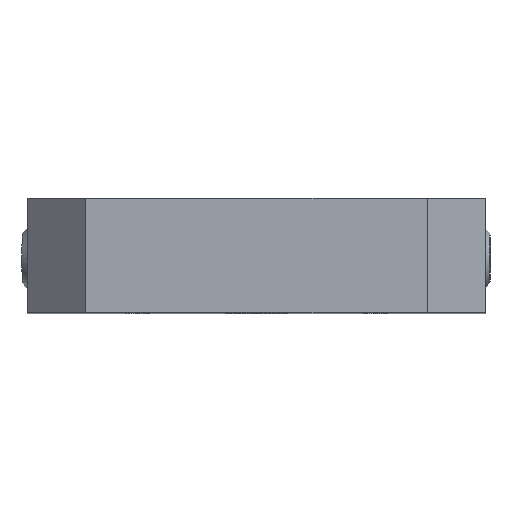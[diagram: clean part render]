
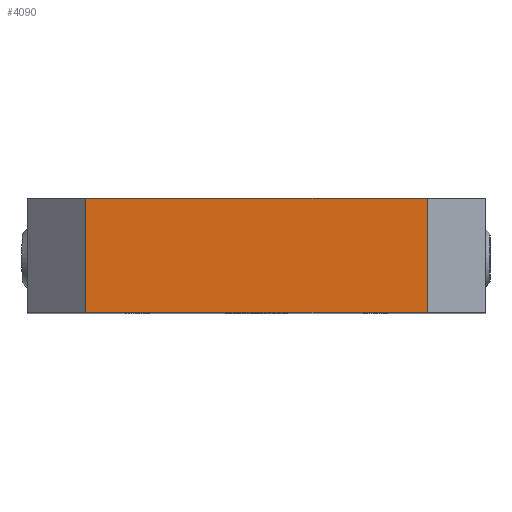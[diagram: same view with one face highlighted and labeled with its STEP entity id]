
A CAD part, top view. The second image highlights one B-rep face of the part: STEP entity #4090.
In plain terms, the highlighted planar face has unit normal (0, 0, 1).
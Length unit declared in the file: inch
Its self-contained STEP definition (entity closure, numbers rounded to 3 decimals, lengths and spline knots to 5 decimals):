
#70 = CARTESIAN_POINT ( 'NONE',  ( -1.4685, 0., 2.40157 ) ) ;
#211 = EDGE_CURVE ( 'NONE', #6446, #5739, #8161, .T. ) ;
#262 = CARTESIAN_POINT ( 'NONE',  ( 1.4685, 0.98425, 2.40157 ) ) ;
#380 = ORIENTED_EDGE ( 'NONE', *, *, #1478, .T. ) ;
#397 = FACE_OUTER_BOUND ( 'NONE', #4439, .T. ) ;
#444 = VERTEX_POINT ( 'NONE', #2784 ) ;
#565 = CARTESIAN_POINT ( 'NONE',  ( 1.4685, 0.98425, 2.40157 ) ) ;
#1135 = DIRECTION ( 'NONE',  ( -1., 0., 0. ) ) ;
#1478 = EDGE_CURVE ( 'NONE', #7181, #444, #4268, .T. ) ;
#1871 = DIRECTION ( 'NONE',  ( 0., 1., 0. ) ) ;
#2285 = CARTESIAN_POINT ( 'NONE',  ( 1.4685, 0., 2.40157 ) ) ;
#2335 = PLANE ( 'NONE',  #6550 ) ;
#2535 = DIRECTION ( 'NONE',  ( -1., 0., 0. ) ) ;
#2784 = CARTESIAN_POINT ( 'NONE',  ( -1.4685, 0.98425, 2.40157 ) ) ;
#2818 = VECTOR ( 'NONE', #2535, 39.37008 ) ;
#3015 = CARTESIAN_POINT ( 'NONE',  ( -1.4685, 0., 2.40157 ) ) ;
#3506 = LINE ( 'NONE', #2285, #6033 ) ;
#3901 = VECTOR ( 'NONE', #8078, 39.37008 ) ;
#4090 = ADVANCED_FACE ( 'NONE', ( #397 ), #2335, .F. ) ;
#4247 = ORIENTED_EDGE ( 'NONE', *, *, #211, .F. ) ;
#4268 = LINE ( 'NONE', #565, #3901 ) ;
#4439 = EDGE_LOOP ( 'NONE', ( #380, #7578, #4247, #6319 ) ) ;
#4588 = CARTESIAN_POINT ( 'NONE',  ( 1.4685, 0., 2.40157 ) ) ;
#4809 = DIRECTION ( 'NONE',  ( 0., 1., 0. ) ) ;
#4897 = DIRECTION ( 'NONE',  ( 0., 0., -1. ) ) ;
#5251 = EDGE_CURVE ( 'NONE', #5739, #444, #7572, .T. ) ;
#5571 = CARTESIAN_POINT ( 'NONE',  ( 1.4685, 0., 2.40157 ) ) ;
#5739 = VERTEX_POINT ( 'NONE', #70 ) ;
#5851 = VECTOR ( 'NONE', #1871, 39.37008 ) ;
#6033 = VECTOR ( 'NONE', #4809, 39.37008 ) ;
#6319 = ORIENTED_EDGE ( 'NONE', *, *, #7329, .T. ) ;
#6446 = VERTEX_POINT ( 'NONE', #4588 ) ;
#6550 = AXIS2_PLACEMENT_3D ( 'NONE', #5571, #4897, #1135 ) ;
#6943 = CARTESIAN_POINT ( 'NONE',  ( 1.4685, 0., 2.40157 ) ) ;
#7181 = VERTEX_POINT ( 'NONE', #262 ) ;
#7329 = EDGE_CURVE ( 'NONE', #6446, #7181, #3506, .T. ) ;
#7572 = LINE ( 'NONE', #3015, #5851 ) ;
#7578 = ORIENTED_EDGE ( 'NONE', *, *, #5251, .F. ) ;
#8078 = DIRECTION ( 'NONE',  ( -1., 0., 0. ) ) ;
#8161 = LINE ( 'NONE', #6943, #2818 ) ;
